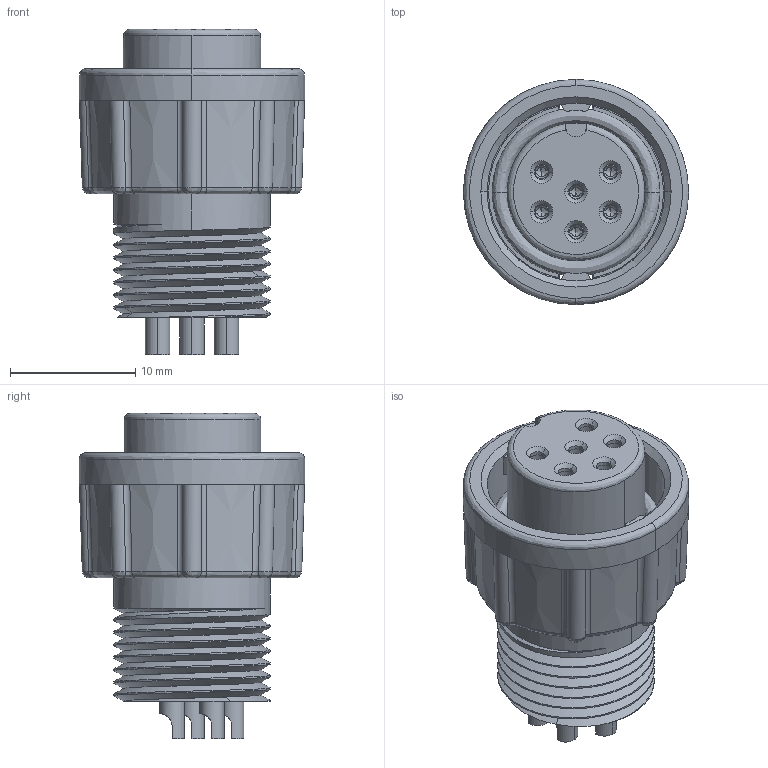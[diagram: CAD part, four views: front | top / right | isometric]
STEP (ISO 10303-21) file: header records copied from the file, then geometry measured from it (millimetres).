
FILE_DESCRIPTION (( 'STEP AP203' ), '1' );
FILE_NAME ('868-006-203R001.STEP', '2024-06-13T20:26:04', ( '' ), ( '' ), 'SwSTEP 2.0', 'SolidWorks 2020', '' );
FILE_SCHEMA (( 'CONFIG_CONTROL_DESIGN' ));
Length unit declared in the file: millimetre
Products named in the file (1): 868-006-203R001
Bounding box: 18 x 18 x 26 mm (x, y, z)
Volume: 3118.9 mm3; surface area: 4175.2 mm2
Topology: 2 solids, 2 shells, 408 faces, 1045 edges, 641 vertices
Faces by surface type: cylinder 136, plane 115, cone 107, bspline 50
Entity records: 17189 total; most frequent: CARTESIAN_POINT 7945, ORIENTED_EDGE 2042, DIRECTION 1787, EDGE_CURVE 1021, AXIS2_PLACEMENT_3D 744, VERTEX_POINT 641, EDGE_LOOP 438, FACE_OUTER_BOUND 408
